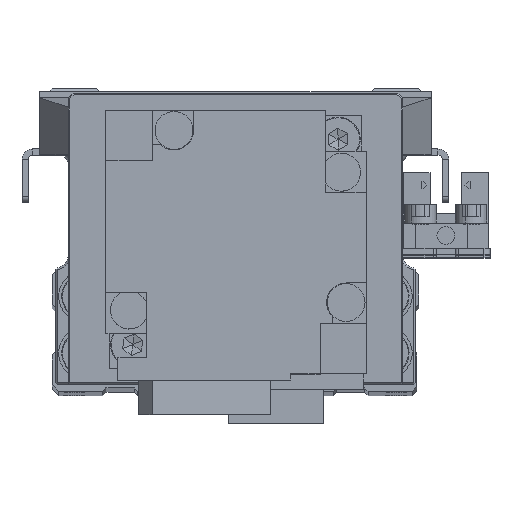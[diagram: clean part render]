
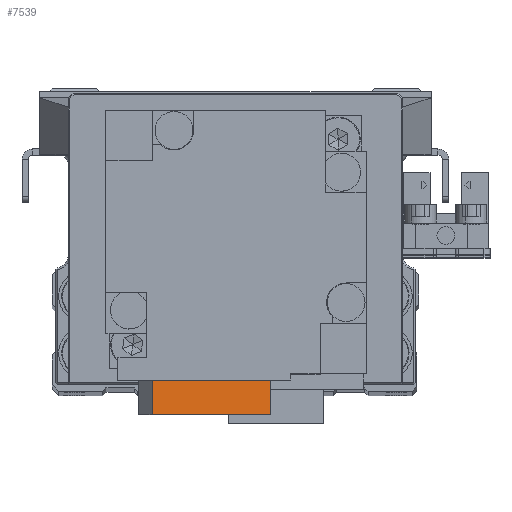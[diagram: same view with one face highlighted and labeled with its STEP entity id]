
A CAD part, top view. The second image highlights one B-rep face of the part: STEP entity #7539.
In plain terms, the highlighted planar face has unit normal (0.156, 0, 0.988) as drawn and (-0.156, 0, -0.988) by its records, which use the part's own axes.
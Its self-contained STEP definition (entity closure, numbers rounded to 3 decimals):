
#1061 = EDGE_LOOP ( 'NONE', ( #33181, #29445, #21948, #13923 ) ) ;
#1429 = LINE ( 'NONE', #13426, #14882 ) ;
#1791 = DIRECTION ( 'NONE',  ( 0.156, 0., 0.988 ) ) ;
#1993 = CARTESIAN_POINT ( 'NONE',  ( -5.583, -22., -76.124 ) ) ;
#2102 = LINE ( 'NONE', #14117, #4159 ) ;
#3352 = CARTESIAN_POINT ( 'NONE',  ( 13.183, -22., -79.096 ) ) ;
#3826 = VERTEX_POINT ( 'NONE', #1993 ) ;
#4159 = VECTOR ( 'NONE', #26087, 1000. ) ;
#4725 = FACE_OUTER_BOUND ( 'NONE', #1061, .T. ) ;
#4845 = VECTOR ( 'NONE', #37504, 1000. ) ;
#5931 = DIRECTION ( 'NONE',  ( 0.988, 0., -0.156 ) ) ;
#7539 = ADVANCED_FACE ( 'NONE', ( #4725 ), #16744, .F. ) ;
#12971 = VERTEX_POINT ( 'NONE', #3352 ) ;
#13426 = CARTESIAN_POINT ( 'NONE',  ( 13.183, -24.75, -79.096 ) ) ;
#13586 = LINE ( 'NONE', #25568, #4845 ) ;
#13793 = DIRECTION ( 'NONE',  ( 0.988, 0., -0.156 ) ) ;
#13923 = ORIENTED_EDGE ( 'NONE', *, *, #26890, .T. ) ;
#14117 = CARTESIAN_POINT ( 'NONE',  ( -5.583, -24.75, -76.124 ) ) ;
#14882 = VECTOR ( 'NONE', #25408, 1000. ) ;
#15661 = CARTESIAN_POINT ( 'NONE',  ( -5.583, -27.5, -76.124 ) ) ;
#16744 = PLANE ( 'NONE',  #19320 ) ;
#19320 = AXIS2_PLACEMENT_3D ( 'NONE', #28708, #1791, #13793 ) ;
#19398 = CARTESIAN_POINT ( 'NONE',  ( 13.183, -27.5, -79.096 ) ) ;
#20890 = LINE ( 'NONE', #32829, #29301 ) ;
#21948 = ORIENTED_EDGE ( 'NONE', *, *, #22830, .F. ) ;
#22830 = EDGE_CURVE ( 'NONE', #3826, #31548, #2102, .T. ) ;
#23149 = EDGE_CURVE ( 'NONE', #31636, #12971, #1429, .T. ) ;
#23379 = EDGE_CURVE ( 'NONE', #31548, #31636, #20890, .T. ) ;
#25408 = DIRECTION ( 'NONE',  ( 0., 1., 0. ) ) ;
#25568 = CARTESIAN_POINT ( 'NONE',  ( -5.583, -22., -76.124 ) ) ;
#26087 = DIRECTION ( 'NONE',  ( 0., -1., 0. ) ) ;
#26890 = EDGE_CURVE ( 'NONE', #3826, #12971, #13586, .T. ) ;
#28708 = CARTESIAN_POINT ( 'NONE',  ( 3.8, -24.75, -77.61 ) ) ;
#29301 = VECTOR ( 'NONE', #5931, 1000. ) ;
#29445 = ORIENTED_EDGE ( 'NONE', *, *, #23379, .F. ) ;
#31548 = VERTEX_POINT ( 'NONE', #15661 ) ;
#31636 = VERTEX_POINT ( 'NONE', #19398 ) ;
#32829 = CARTESIAN_POINT ( 'NONE',  ( 3.8, -27.5, -77.61 ) ) ;
#33181 = ORIENTED_EDGE ( 'NONE', *, *, #23149, .F. ) ;
#37504 = DIRECTION ( 'NONE',  ( 0.988, 0., -0.156 ) ) ;
